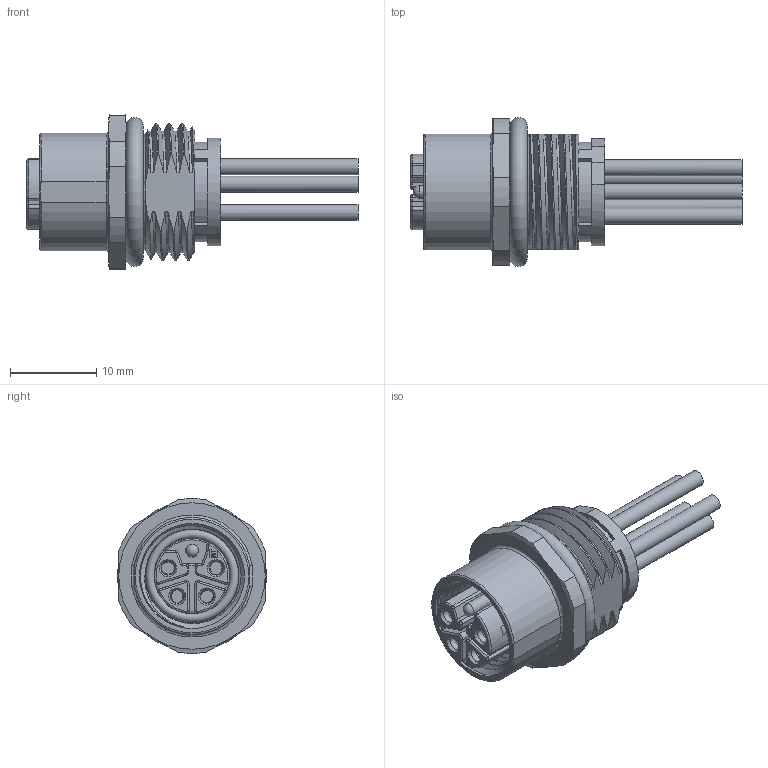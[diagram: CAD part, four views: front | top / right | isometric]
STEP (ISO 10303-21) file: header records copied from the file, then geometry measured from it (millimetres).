
FILE_DESCRIPTION(/* description */ (''),/* implementation_level */ '2;1');
FILE_NAME(/* name */ '09-0642-XXX-05-001_01.stp',/* time_stamp */ '2019-09-19T14:02:02+02:00',/* author */ (''),/* organization */ (''),/* preprocessor_version */ 'ST-DEVELOPER v16',/* originating_system */ 'SIEMENS PLM Software NX 11.0',/* authorisation */ '');
FILE_SCHEMA (('AUTOMOTIVE_DESIGN { 1 0 10303 214 3 1 1 1 }'));
Length unit declared in the file: millimetre
Products named in the file (1): sgro267CDCDF2mnl
Bounding box: 38.55 x 17.32 x 17.96 mm (x, y, z)
Volume: 3084.7 mm3; surface area: 3444 mm2
Topology: 1 solids, 1 shells, 445 faces, 1165 edges, 747 vertices
Faces by surface type: cylinder 182, plane 150, torus 37, cone 35, bspline 32, sphere 9
Full cylindrical faces by diameter (mm): 1.5 x1, 1.6 x8, 1.85 x5, 2.3 x4, 8.75 x1, 10.6 x1, 10.917 x1, 12 x5, 12.2 x1, 13.3 x1
Entity records: 20053 total; most frequent: CARTESIAN_POINT 9616, ORIENTED_EDGE 2190, DIRECTION 2151, EDGE_CURVE 1095, AXIS2_PLACEMENT_3D 871, VERTEX_POINT 719, EDGE_LOOP 502, ADVANCED_FACE 440
